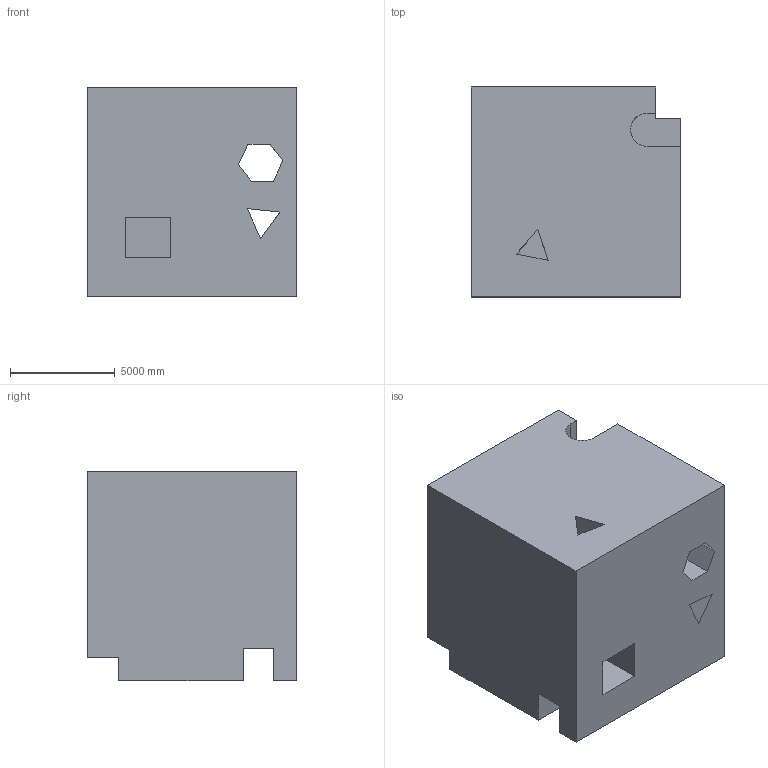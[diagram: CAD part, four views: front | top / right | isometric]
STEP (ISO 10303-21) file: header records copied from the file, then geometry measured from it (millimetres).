
FILE_DESCRIPTION (( 'STEP AP203' ), '1' );
FILE_NAME ('886.STEP', '2022-08-05T16:23:36', ( 'user' ), ( '' ), 'SwSTEP 2.0', 'SolidWorks 2021', '' );
FILE_SCHEMA (( 'CONFIG_CONTROL_DESIGN' ));
Length unit declared in the file: centimetre
Products named in the file (1): 886
Bounding box: 10000 x 10000 x 10000 mm (x, y, z)
Volume: 859435977743.3 mm3; surface area: 790389457.9 mm2
Topology: 1 solids, 1 shells, 45 faces, 129 edges, 86 vertices
Faces by surface type: plane 43, cylinder 2
Entity records: 1532 total; most frequent: CARTESIAN_POINT 261, ORIENTED_EDGE 258, DIRECTION 225, EDGE_CURVE 129, LINE 125, VECTOR 125, VERTEX_POINT 86, AXIS2_PLACEMENT_3D 50
